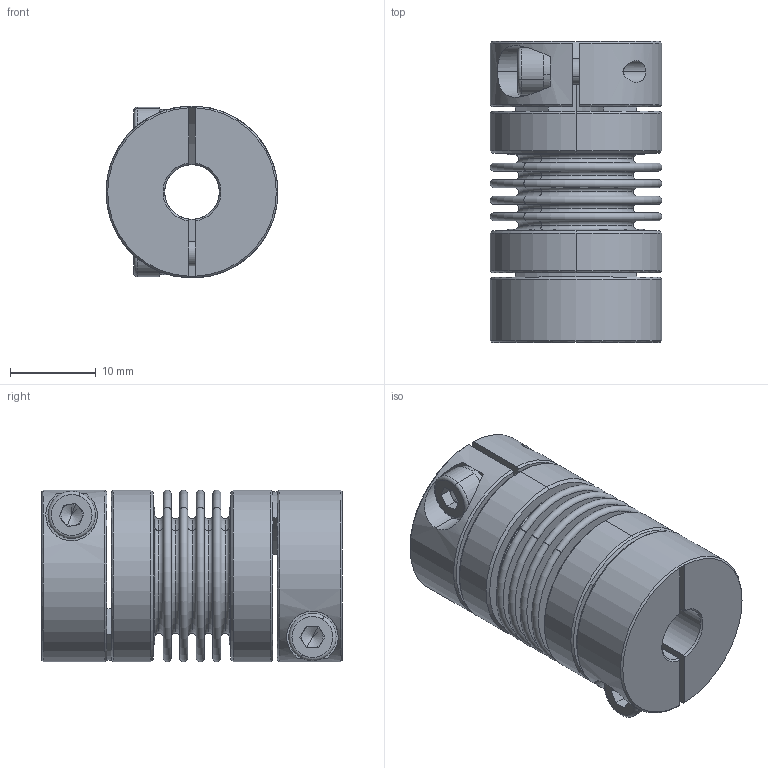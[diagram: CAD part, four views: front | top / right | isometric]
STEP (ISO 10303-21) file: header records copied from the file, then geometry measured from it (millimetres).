
FILE_DESCRIPTION (( 'STEP AP203' ), '1' );
FILE_NAME ('LB-B-D20L34-6.35-10.STEP', '2021-11-04T01:42:20', ( '' ), ( '' ), 'SwSTEP 2.0', 'SolidWorks 2018', '' );
FILE_SCHEMA (( 'CONFIG_CONTROL_DESIGN' ));
Length unit declared in the file: millimetre
Products named in the file (2): 零件4^LB-B-D20L34 波纹管联轴器-组装体; LB-B-D20L34-6.35-10
Assembly tree (1 placements, depth 2):
  LB-B-D20L34-6.35-10
    零件4^LB-B-D20L34 波纹管联轴器-组装体
Bounding box: 20 x 35 x 20 mm (x, y, z)
Volume: 5587.1 mm3; surface area: 9456.2 mm2
Topology: 1 solids, 1 shells, 246 faces, 572 edges, 354 vertices
Faces by surface type: plane 83, torus 68, cylinder 61, cone 34
Entity records: 7500 total; most frequent: CARTESIAN_POINT 1478, DIRECTION 1376, ORIENTED_EDGE 1136, AXIS2_PLACEMENT_3D 604, EDGE_CURVE 568, VERTEX_POINT 354, CIRCLE 354, EDGE_LOOP 288
